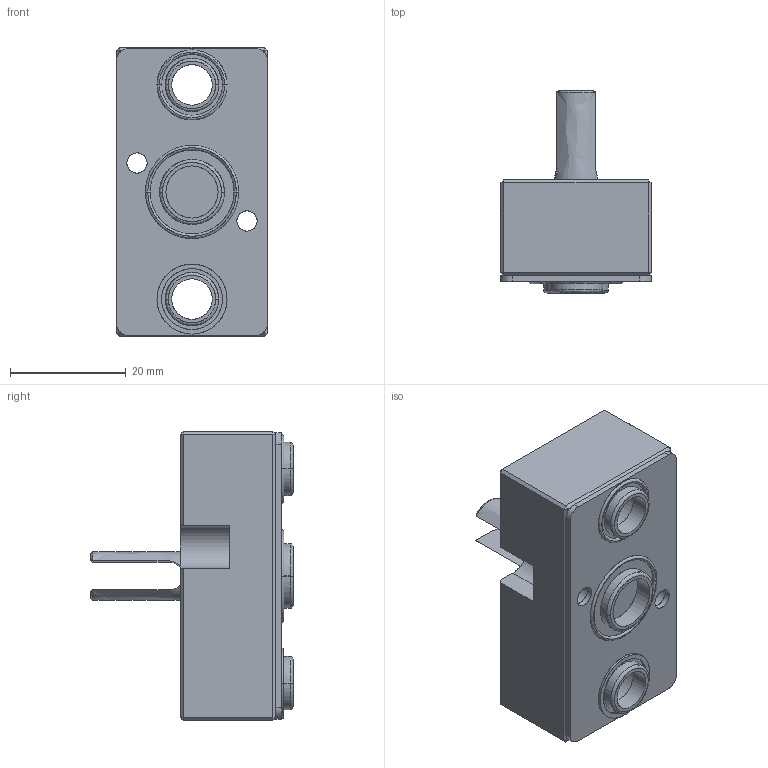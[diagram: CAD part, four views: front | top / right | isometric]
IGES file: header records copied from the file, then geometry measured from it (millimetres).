
Start section: SolidWorks IGES file using analytic representation for surfaces
Global section: file name: C:\Documents and Settings\Administrator\桌面\新資料夾 (2)\SOB52-02.IGS; native system: SolidWorks 2012; preprocessor: SolidWorks 2012; author: Administrator; date: 150729.160721; units: millimetre
Bounding box: 26 x 34.93 x 50 mm (x, y, z)
Surface area: 9774.2 mm2 (no closed solid volume)
Topology: 0 solids, 0 shells, 140 faces, 2513 edges, 2818 vertices
Faces by surface type: bspline 94, revolution 46
